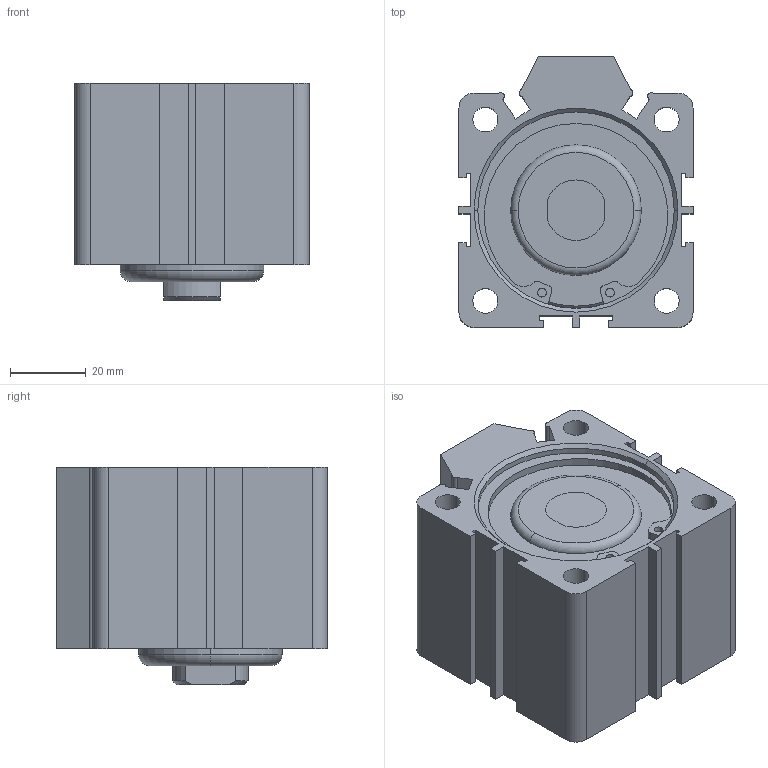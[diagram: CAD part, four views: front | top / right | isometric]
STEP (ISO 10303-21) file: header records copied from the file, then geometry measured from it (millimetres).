
FILE_DESCRIPTION (( 'STEP AP214' ), '1' );
FILE_NAME ('SDA_N_50_10_WEB.STEP', '2020-08-24T16:49:38', ( '' ), ( '' ), 'SwSTEP 2.0', 'SolidWorks 2018', '' );
FILE_SCHEMA (( 'AUTOMOTIVE_DESIGN' ));
Length unit declared in the file: millimetre
Products named in the file (6): SDA_N_50_ARKAKAPAK; basic internal retaining ring_am_B27.7M - 3BM1-52; SDA_N_50_10_WEB; SDA_N_50_MIL_WEB; SDA_N_50_BOGAZ_BURCU_VER_2; SDA 50_BORU_WEB
Assembly tree (6 placements, depth 2):
  SDA_N_50_10_WEB
    SDA 50_BORU_WEB
    SDA_N_50_ARKAKAPAK
    SDA_N_50_MIL_WEB
    SDA_N_50_BOGAZ_BURCU_VER_2
    basic internal retaining ring_am_B27.7M - 3BM1-52  x2
Bounding box: 62 x 71.7 x 57.5 mm (x, y, z)
Volume: 119914.5 mm3; surface area: 53780.8 mm2
Topology: 6 solids, 6 shells, 359 faces, 954 edges, 623 vertices
Faces by surface type: plane 150, cylinder 106, bspline 64, cone 35, torus 4
Entity records: 14846 total; most frequent: CARTESIAN_POINT 5227, ORIENTED_EDGE 1766, DIRECTION 1508, EDGE_CURVE 883, VERTEX_POINT 577, VECTOR 512, LINE 512, AXIS2_PLACEMENT_3D 498
